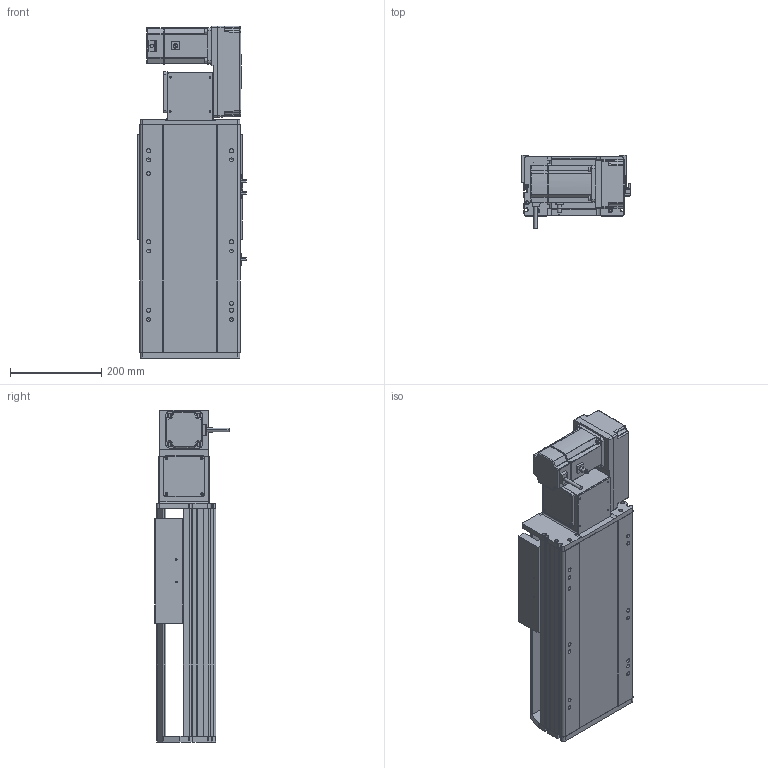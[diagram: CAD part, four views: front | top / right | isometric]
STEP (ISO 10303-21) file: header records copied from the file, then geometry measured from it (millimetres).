
FILE_DESCRIPTION (( 'STEP AP214' ), '1' );
FILE_NAME ('RTB22S-XX-150-R-M75-C4.STEP', '2025-12-12T07:13:16', ( '' ), ( '' ), 'SwSTEP 2.0', 'SolidWorks 2018', '' );
FILE_SCHEMA (( 'AUTOMOTIVE_DESIGN' ));
Length unit declared in the file: millimetre
Products named in the file (14): OMRON EE-SX672 传感器^RTB22S-XX-XX-R-M75-C4; RTH22-GY-013外置感应片^RTB22S-XX-XX-R-M75-C4; RTB22S-L-004賑釱^RTB22S-XX-XX-R-M75-C4; RTB22S-GY-007奻裔^RTB22S-XX-XX-R-M75-C4; RTB22S-GY-008-M75--萇儂啣^RTB22S-R-々湍釱蚾饜_RTB22S-XX-XX-R-M75-C4; 750W萇儂^RTB22S-XX-XX-R-M75-C4; RTB22S-GY-017P^RTB22S-R-々湍釱蚾饜_RTB22S-XX-XX-R-M75-C4; RTB22S-GY-018P^RTB22S-R-々湍釱蚾饜_RTB22S-XX-XX-R-M75-C4; RTB22S-L-011菁釱^RTB22S-XX-XX-R-M75-C4; RTB22S-R-々湍釱蚾饜^RTB22S-XX-XX-R-M75-C4; RTB22S-GY-014--々湍釱^RTB22S-R-々湍釱蚾饜_RTB22S-XX-XX-R-M75-C4; RTB22S-GY-005P^RTB22S-R-々湍釱蚾饜_RTB22S-XX-XX-R-M75-C4; RTB22S-XX-150-R-M75-C4; RTB22S-GY-001耜裔^RTB22S-XX-XX-R-M75-C4
Assembly tree (16 placements, depth 3):
  RTB22S-XX-150-R-M75-C4
    RTB22S-L-011菁釱^RTB22S-XX-XX-R-M75-C4
    RTB22S-GY-001耜裔^RTB22S-XX-XX-R-M75-C4
    750W萇儂^RTB22S-XX-XX-R-M75-C4
    RTB22S-GY-007奻裔^RTB22S-XX-XX-R-M75-C4
    RTB22S-L-004賑釱^RTB22S-XX-XX-R-M75-C4
    RTH22-GY-013外置感应片^RTB22S-XX-XX-R-M75-C4
    OMRON EE-SX672 传感器^RTB22S-XX-XX-R-M75-C4  x3
    RTB22S-R-々湍釱蚾饜^RTB22S-XX-XX-R-M75-C4
      RTB22S-GY-014--々湍釱^RTB22S-R-々湍釱蚾饜_RTB22S-XX-XX-R-M75-C4
      RTB22S-GY-017P^RTB22S-R-々湍釱蚾饜_RTB22S-XX-XX-R-M75-C4  x2
      RTB22S-GY-005P^RTB22S-R-々湍釱蚾饜_RTB22S-XX-XX-R-M75-C4
      RTB22S-GY-008-M75--萇儂啣^RTB22S-R-々湍釱蚾饜_RTB22S-XX-XX-R-M75-C4
      RTB22S-GY-018P^RTB22S-R-々湍釱蚾饜_RTB22S-XX-XX-R-M75-C4
Bounding box: 238.5 x 162.7 x 729 mm (x, y, z)
Volume: 11388171.6 mm3; surface area: 1225614.3 mm2
Topology: 15 solids, 15 shells, 1893 faces, 5136 edges, 3302 vertices
Faces by surface type: plane 905, cylinder 562, bspline 296, cone 118, sphere 8, torus 4
Entity records: 49478 total; most frequent: CARTESIAN_POINT 14432, ORIENTED_EDGE 7100, DIRECTION 6744, EDGE_CURVE 3550, AXIS2_PLACEMENT_3D 2346, VERTEX_POINT 2306, LINE 2052, VECTOR 2052
